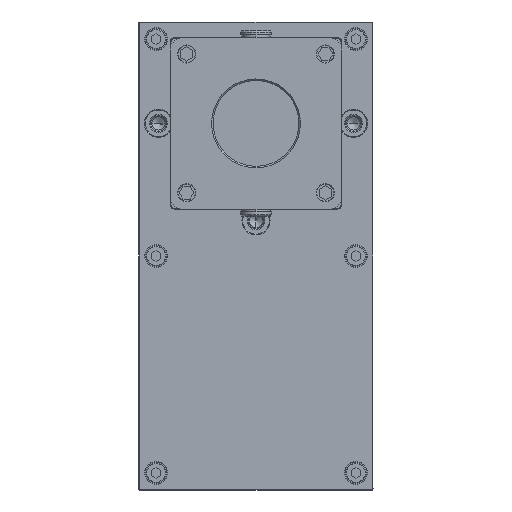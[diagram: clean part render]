
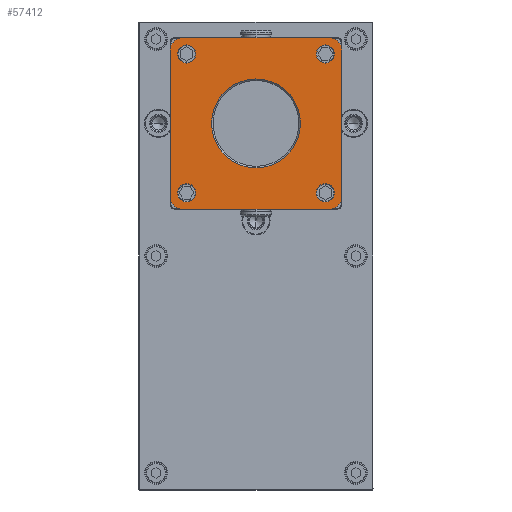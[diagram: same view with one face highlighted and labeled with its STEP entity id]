
A CAD part, front view. The second image highlights one B-rep face of the part: STEP entity #57412.
In plain terms, the highlighted planar face has unit normal (0, -1, 0).
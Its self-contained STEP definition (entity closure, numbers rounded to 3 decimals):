
#56467=CARTESIAN_POINT('',(47.,-7.,47.));
#56468=DIRECTION('',(0.,-1.,0.));
#56469=DIRECTION('',(1.,0.,0.));
#56470=AXIS2_PLACEMENT_3D('',#56467,#56468,#56469);
#56472=DIRECTION('',(0.,0.,-1.));
#56473=VECTOR('',#56472,94.);
#56474=CARTESIAN_POINT('',(55.,-7.,47.));
#56475=LINE('',#56474,#56473);
#56476=CARTESIAN_POINT('',(47.,-7.,-47.));
#56477=DIRECTION('',(0.,-1.,0.));
#56478=DIRECTION('',(0.,0.,-1.));
#56479=AXIS2_PLACEMENT_3D('',#56476,#56477,#56478);
#56481=DIRECTION('',(-1.,0.,0.));
#56482=VECTOR('',#56481,94.);
#56483=CARTESIAN_POINT('',(47.,-7.,-55.));
#56484=LINE('',#56483,#56482);
#56485=CARTESIAN_POINT('',(-47.,-7.,-47.));
#56486=DIRECTION('',(0.,-1.,0.));
#56487=DIRECTION('',(-1.,0.,0.));
#56488=AXIS2_PLACEMENT_3D('',#56485,#56486,#56487);
#56490=DIRECTION('',(0.,0.,1.));
#56491=VECTOR('',#56490,94.);
#56492=CARTESIAN_POINT('',(-55.,-7.,-47.));
#56493=LINE('',#56492,#56491);
#56494=CARTESIAN_POINT('',(-47.,-7.,47.));
#56495=DIRECTION('',(0.,-1.,0.));
#56496=DIRECTION('',(0.,0.,1.));
#56497=AXIS2_PLACEMENT_3D('',#56494,#56495,#56496);
#56499=DIRECTION('',(1.,0.,0.));
#56500=VECTOR('',#56499,94.);
#56501=CARTESIAN_POINT('',(-47.,-7.,55.));
#56502=LINE('',#56501,#56500);
#56503=CARTESIAN_POINT('',(44.5,-7.,-44.5));
#56504=DIRECTION('',(0.,1.,0.));
#56505=DIRECTION('',(1.,0.,0.));
#56506=AXIS2_PLACEMENT_3D('',#56503,#56504,#56505);
#56508=CARTESIAN_POINT('',(44.5,-7.,-44.5));
#56509=DIRECTION('',(0.,1.,0.));
#56510=DIRECTION('',(-1.,0.,0.));
#56511=AXIS2_PLACEMENT_3D('',#56508,#56509,#56510);
#56513=CARTESIAN_POINT('',(44.5,-7.,44.5));
#56514=DIRECTION('',(0.,1.,0.));
#56515=DIRECTION('',(-1.,0.,0.));
#56516=AXIS2_PLACEMENT_3D('',#56513,#56514,#56515);
#56518=CARTESIAN_POINT('',(44.5,-7.,44.5));
#56519=DIRECTION('',(0.,1.,0.));
#56520=DIRECTION('',(1.,0.,0.));
#56521=AXIS2_PLACEMENT_3D('',#56518,#56519,#56520);
#56523=CARTESIAN_POINT('',(-44.5,-7.,44.5));
#56524=DIRECTION('',(0.,1.,0.));
#56525=DIRECTION('',(-1.,0.,0.));
#56526=AXIS2_PLACEMENT_3D('',#56523,#56524,#56525);
#56528=CARTESIAN_POINT('',(-44.5,-7.,44.5));
#56529=DIRECTION('',(0.,1.,0.));
#56530=DIRECTION('',(1.,0.,0.));
#56531=AXIS2_PLACEMENT_3D('',#56528,#56529,#56530);
#56533=CARTESIAN_POINT('',(-44.5,-7.,-44.5));
#56534=DIRECTION('',(0.,1.,0.));
#56535=DIRECTION('',(1.,0.,0.));
#56536=AXIS2_PLACEMENT_3D('',#56533,#56534,#56535);
#56538=CARTESIAN_POINT('',(-44.5,-7.,-44.5));
#56539=DIRECTION('',(0.,1.,0.));
#56540=DIRECTION('',(-1.,0.,0.));
#56541=AXIS2_PLACEMENT_3D('',#56538,#56539,#56540);
#56543=CARTESIAN_POINT('',(0.,-7.,0.));
#56544=DIRECTION('',(0.,1.,0.));
#56545=DIRECTION('',(0.,0.,1.));
#56546=AXIS2_PLACEMENT_3D('',#56543,#56544,#56545);
#56548=CARTESIAN_POINT('',(0.,-7.,0.));
#56549=DIRECTION('',(0.,1.,0.));
#56550=DIRECTION('',(0.,0.,-1.));
#56551=AXIS2_PLACEMENT_3D('',#56548,#56549,#56550);
#57203=CARTESIAN_POINT('',(55.,-7.,47.));
#57204=CARTESIAN_POINT('',(47.,-7.,55.));
#57205=VERTEX_POINT('',#57203);
#57206=VERTEX_POINT('',#57204);
#57211=CARTESIAN_POINT('',(-47.,-7.,55.));
#57212=CARTESIAN_POINT('',(-55.,-7.,47.));
#57213=VERTEX_POINT('',#57211);
#57214=VERTEX_POINT('',#57212);
#57219=CARTESIAN_POINT('',(47.,-7.,-55.));
#57220=CARTESIAN_POINT('',(55.,-7.,-47.));
#57221=VERTEX_POINT('',#57219);
#57222=VERTEX_POINT('',#57220);
#57227=CARTESIAN_POINT('',(-55.,-7.,-47.));
#57228=CARTESIAN_POINT('',(-47.,-7.,-55.));
#57229=VERTEX_POINT('',#57227);
#57230=VERTEX_POINT('',#57228);
#57251=CARTESIAN_POINT('',(50.3,-7.,-44.5));
#57252=CARTESIAN_POINT('',(38.7,-7.,-44.5));
#57253=VERTEX_POINT('',#57251);
#57254=VERTEX_POINT('',#57252);
#57259=CARTESIAN_POINT('',(38.7,-7.,44.5));
#57260=CARTESIAN_POINT('',(50.3,-7.,44.5));
#57261=VERTEX_POINT('',#57259);
#57262=VERTEX_POINT('',#57260);
#57267=CARTESIAN_POINT('',(-50.3,-7.,44.5));
#57268=CARTESIAN_POINT('',(-38.7,-7.,44.5));
#57269=VERTEX_POINT('',#57267);
#57270=VERTEX_POINT('',#57268);
#57275=CARTESIAN_POINT('',(-38.7,-7.,-44.5));
#57276=CARTESIAN_POINT('',(-50.3,-7.,-44.5));
#57277=VERTEX_POINT('',#57275);
#57278=VERTEX_POINT('',#57276);
#57351=CARTESIAN_POINT('',(0.,-7.,28.5));
#57352=CARTESIAN_POINT('',(0.,-7.,-28.5));
#57353=VERTEX_POINT('',#57351);
#57354=VERTEX_POINT('',#57352);
#57359=CARTESIAN_POINT('',(0.,-7.,0.));
#57360=DIRECTION('',(0.,1.,0.));
#57361=DIRECTION('',(1.,0.,0.));
#57362=AXIS2_PLACEMENT_3D('',#57359,#57360,#57361);
#57363=PLANE('',#57362);
#57365=ORIENTED_EDGE('',*,*,#57364,.F.);
#57367=ORIENTED_EDGE('',*,*,#57366,.T.);
#57369=ORIENTED_EDGE('',*,*,#57368,.F.);
#57371=ORIENTED_EDGE('',*,*,#57370,.T.);
#57373=ORIENTED_EDGE('',*,*,#57372,.F.);
#57375=ORIENTED_EDGE('',*,*,#57374,.T.);
#57377=ORIENTED_EDGE('',*,*,#57376,.F.);
#57379=ORIENTED_EDGE('',*,*,#57378,.T.);
#57380=EDGE_LOOP('',(#57365,#57367,#57369,#57371,#57373,#57375,#57377,#57379));
#57381=FACE_OUTER_BOUND('',#57380,.F.);
#57383=ORIENTED_EDGE('',*,*,#57382,.F.);
#57385=ORIENTED_EDGE('',*,*,#57384,.F.);
#57386=EDGE_LOOP('',(#57383,#57385));
#57387=FACE_BOUND('',#57386,.F.);
#57389=ORIENTED_EDGE('',*,*,#57388,.F.);
#57391=ORIENTED_EDGE('',*,*,#57390,.F.);
#57392=EDGE_LOOP('',(#57389,#57391));
#57393=FACE_BOUND('',#57392,.F.);
#57395=ORIENTED_EDGE('',*,*,#57394,.F.);
#57397=ORIENTED_EDGE('',*,*,#57396,.F.);
#57398=EDGE_LOOP('',(#57395,#57397));
#57399=FACE_BOUND('',#57398,.F.);
#57401=ORIENTED_EDGE('',*,*,#57400,.F.);
#57403=ORIENTED_EDGE('',*,*,#57402,.F.);
#57404=EDGE_LOOP('',(#57401,#57403));
#57405=FACE_BOUND('',#57404,.F.);
#57407=ORIENTED_EDGE('',*,*,#57406,.F.);
#57409=ORIENTED_EDGE('',*,*,#57408,.F.);
#57410=EDGE_LOOP('',(#57407,#57409));
#57411=FACE_BOUND('',#57410,.F.);
#57412=ADVANCED_FACE('',(#57381,#57387,#57393,#57399,#57405,#57411),#57363,.F.);
#56471=CIRCLE('',#56470,8.);
#56480=CIRCLE('',#56479,8.);
#56489=CIRCLE('',#56488,8.);
#56498=CIRCLE('',#56497,8.);
#56507=CIRCLE('',#56506,5.8);
#56512=CIRCLE('',#56511,5.8);
#56517=CIRCLE('',#56516,5.8);
#56522=CIRCLE('',#56521,5.8);
#56527=CIRCLE('',#56526,5.8);
#56532=CIRCLE('',#56531,5.8);
#56537=CIRCLE('',#56536,5.8);
#56542=CIRCLE('',#56541,5.8);
#56547=CIRCLE('',#56546,28.5);
#56552=CIRCLE('',#56551,28.5);
#57364=EDGE_CURVE('',#57205,#57206,#56471,.T.);
#57366=EDGE_CURVE('',#57205,#57222,#56475,.T.);
#57368=EDGE_CURVE('',#57221,#57222,#56480,.T.);
#57370=EDGE_CURVE('',#57221,#57230,#56484,.T.);
#57372=EDGE_CURVE('',#57229,#57230,#56489,.T.);
#57374=EDGE_CURVE('',#57229,#57214,#56493,.T.);
#57376=EDGE_CURVE('',#57213,#57214,#56498,.T.);
#57378=EDGE_CURVE('',#57213,#57206,#56502,.T.);
#57382=EDGE_CURVE('',#57253,#57254,#56507,.T.);
#57384=EDGE_CURVE('',#57254,#57253,#56512,.T.);
#57388=EDGE_CURVE('',#57261,#57262,#56517,.T.);
#57390=EDGE_CURVE('',#57262,#57261,#56522,.T.);
#57394=EDGE_CURVE('',#57269,#57270,#56527,.T.);
#57396=EDGE_CURVE('',#57270,#57269,#56532,.T.);
#57400=EDGE_CURVE('',#57277,#57278,#56537,.T.);
#57402=EDGE_CURVE('',#57278,#57277,#56542,.T.);
#57406=EDGE_CURVE('',#57353,#57354,#56547,.T.);
#57408=EDGE_CURVE('',#57354,#57353,#56552,.T.);
